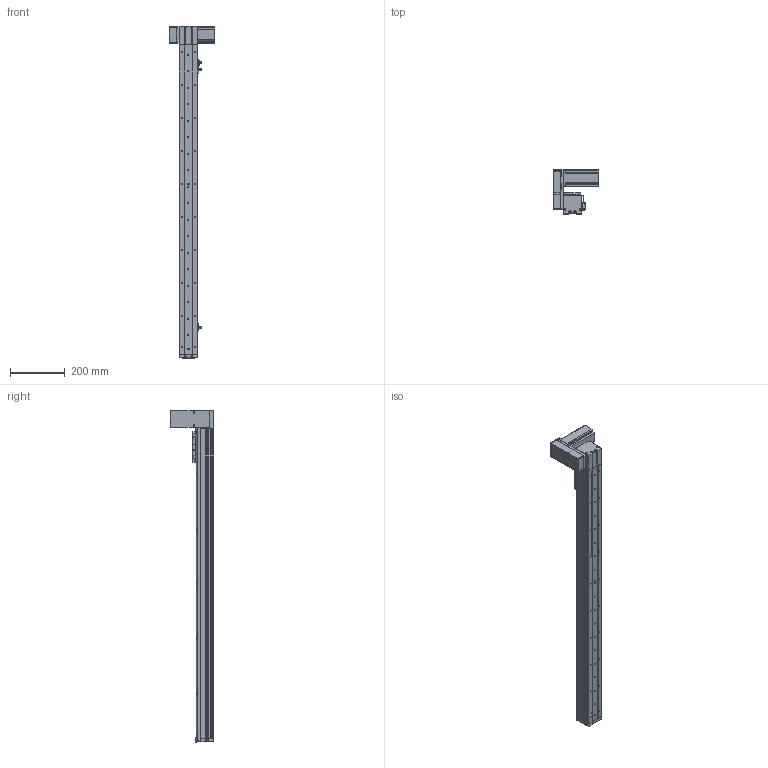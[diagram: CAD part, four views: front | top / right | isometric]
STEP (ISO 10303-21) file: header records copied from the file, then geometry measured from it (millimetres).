
FILE_DESCRIPTION (( 'STEP AP214' ), '1' );
FILE_NAME ('KSD68BS-S950-MRU-CR.STEP', '2019-11-08T05:58:17', ( '微软用户' ), ( '微软中国' ), 'SwSTEP 2.0', 'SolidWorks 2014', '' );
FILE_SCHEMA (( 'AUTOMOTIVE_DESIGN' ));
Length unit declared in the file: millimetre
Products named in the file (14): KSD68BS 950行程侧板全封闭; 68宽单导轨全封闭同步带端板; 68单导轨全封闭同步带电机座右; 68单导轨全封闭同步带安装板; 悵誘欶奻狟殏; 68宽马达安装板连板上折同步带; 感应片68宽全封闭; U倰嫖萇EEㄜSX672; 台达ECMA－C20604AS伺服电机（400W); KSD68BS 950行程底板全封闭; KSD68BS-S950-MRU-CR; 68遵裔啣揤啣1; KSD68BS 950行程盖板全封闭; 68宽单导轨全封闭丝杆传动安装板1防护罩
Assembly tree (17 placements, depth 2):
  KSD68BS-S950-MRU-CR
    KSD68BS 950行程底板全封闭
    台达ECMA－C20604AS伺服电机（400W)
    U倰嫖萇EEㄜSX672  x3
    感应片68宽全封闭
    68宽马达安装板连板上折同步带
    悵誘欶奻狟殏
    68单导轨全封闭同步带安装板
    68单导轨全封闭同步带电机座右
    68宽单导轨全封闭同步带端板
    KSD68BS 950行程侧板全封闭  x2
    68宽单导轨全封闭丝杆传动安装板1防护罩
    68遵裔啣揤啣1  x2
    KSD68BS 950行程盖板全封闭
Bounding box: 167.2 x 159.5 x 1208.1 mm (x, y, z)
Volume: 2469316.8 mm3; surface area: 940814.9 mm2
Topology: 18 solids, 18 shells, 1524 faces, 4337 edges, 2771 vertices
Faces by surface type: cylinder 725, plane 631, cone 168
Entity records: 48306 total; most frequent: CARTESIAN_POINT 8273, DIRECTION 7237, ORIENTED_EDGE 6918, EDGE_CURVE 3459, AXIS2_PLACEMENT_3D 2613, VERTEX_POINT 2269, LINE 2011, VECTOR 2011
